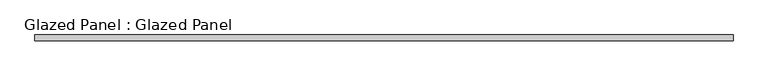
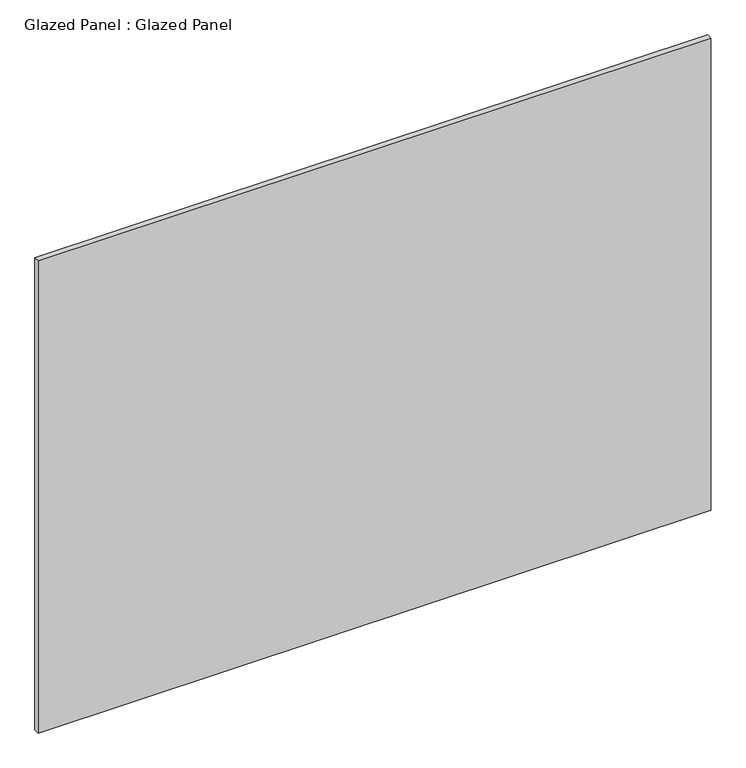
"""IFC4 building model written with IfcOpenShell, lengths in millimetres: plate geometry, Glazed Panel : Glazed Panel."""

from ifc_helpers import new_model, si_unit, origin, origin_with_axes, place, context, project, spatial, polyline, outline, extrude, source, transform, mapped, element, save


def glazed_panel_glazed_panel_666a1eef(model_context):
    return source(origin(), model_context, "Body", "SweptSolid", [
        extrude(outline(polyline([(1577.998125, 38.1), (-1577.998125, 38.1), (-1577.998125, 63.5), (1577.998125, 63.5), (1577.998125, 38.1)])), origin_with_axes(), (0.0, 0.0, 1.0), 2343.15),
    ])


if __name__ == "__main__":
    model = new_model("IFC4")
    model_context = context("Model", 3, world=origin())
    ifc_project = project(units=[si_unit("LENGTHUNIT", "METRE", prefix="MILLI")], contexts=[model_context])
    site = spatial("IfcSite", under=ifc_project)
    building = spatial("IfcBuilding", under=site)
    placement = place(None, origin())
    glazed_panel_glazed_panel_shape = glazed_panel_glazed_panel_666a1eef(model_context)
    element("IfcPlate", 1, ObjectType="Glazed Panel : Glazed Panel", at=placement, inside=building, context=model_context, shape_type="MappedRepresentation", body=[
        mapped(glazed_panel_glazed_panel_shape, transform((0.0, 0.0, 0.0), x_axis=(1.0, 0.0, 0.0), y_axis=(0.0, 1.0, 0.0), z_axis=(0.0, 0.0, 1.0))),
    ])
    save(model, "model.ifc")
